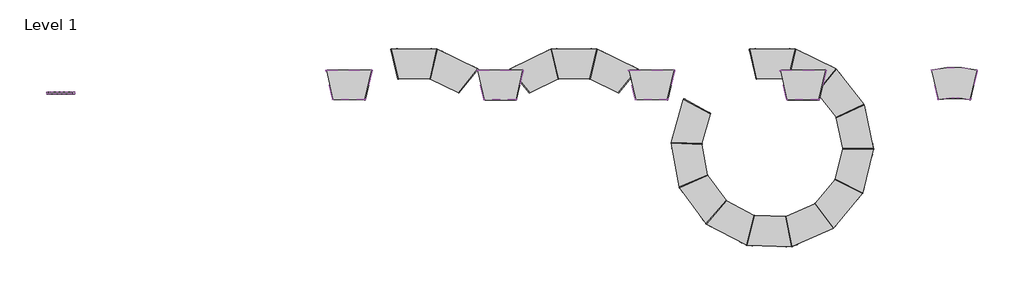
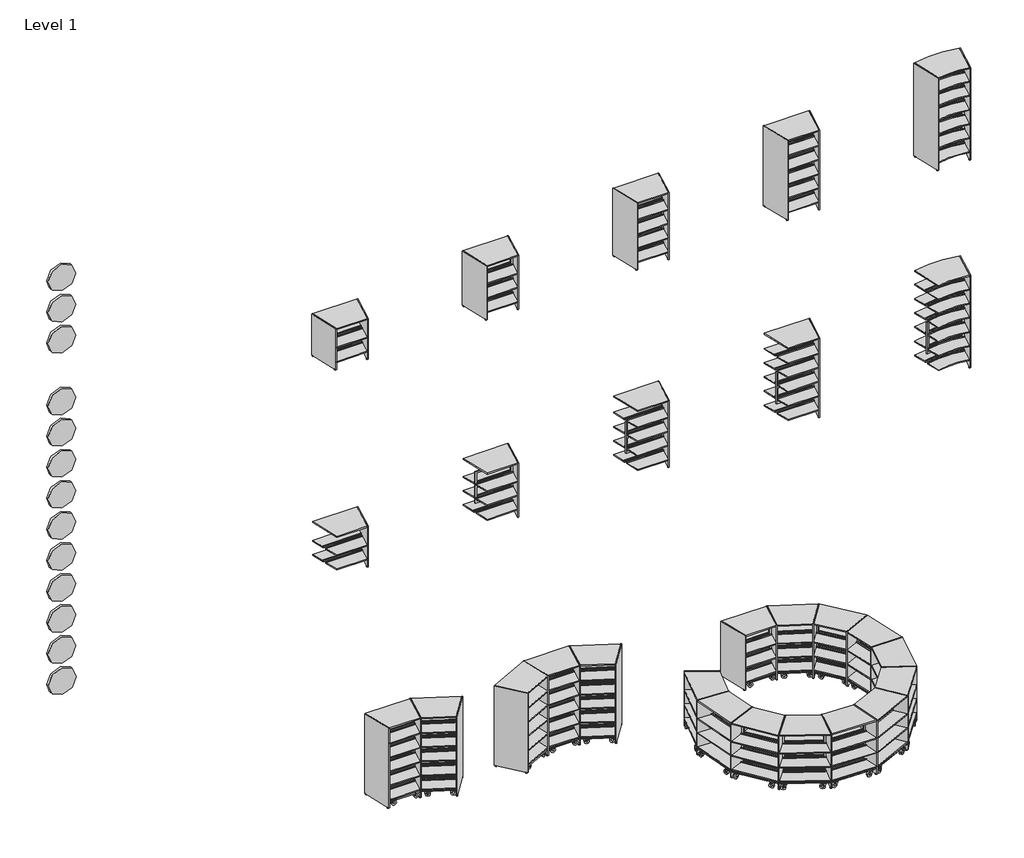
# One storey: 27 furniture elements, 13 proxies.
"""IFC4 building model written with IfcOpenShell, lengths in millimetres."""

from ifc_helpers import new_model, si_unit, origin, place, context, project, spatial, transform, mapped, element, save
from components import materialmodel_materialmodel_37012b21, bk_library_atlas_df_1240_bk_library_atlas_df_1240_fbd94dde, bk_library_atlas_df_1240_bk_library_atlas_df_1240_5238fd98, bk_library_atlas_df_1240_bk_library_atlas_df_1240_d876e077, bk_library_atlas_df_1530_bk_library_atlas_df_1530_acc2bcb0, bk_library_atlas_df_1800_bk_library_atlas_df_1800_94cf6b04, bk_library_atlas_df_1800_bk_library_atlas_df_1800_3e1de083, bk_library_atlas_df_1800_bk_library_atlas_df_1800_6cbebfb4, bk_library_atlas_df_2100_bk_library_atlas_df_2100_e4d77250, bk_library_atlas_df_950_bk_library_atlas_df_950_67e1581c, bk_library_atlas_ds_1240_bk_library_atlas_ds_1240_f50a3288, bk_library_atlas_ds_1240_bk_library_atlas_ds_1240_41a0ee64, bk_library_atlas_ds_1530_bk_library_atlas_ds_1530_61157fd0, bk_library_atlas_ds_1800_bk_library_atlas_ds_1800_477fe875, bk_library_atlas_ds_1800_bk_library_atlas_ds_1800_9343d491, bk_library_atlas_ds_2100_bk_library_atlas_ds_2100_990d0805, bk_library_atlas_ds_950_bk_library_atlas_ds_950_578a3dcb

model = new_model("IFC4")

# Units and contexts
model_context = context("Model", 3, world=origin())
ifc_project = project(units=[si_unit("LENGTHUNIT", "METRE", prefix="MILLI")], contexts=[model_context])

# Site, building, storey
site = spatial("IfcSite", under=ifc_project)
building = spatial("IfcBuilding", under=site)
storey = spatial("IfcBuildingStorey", under=building, Name="Level 1", Elevation=0.0)

# Proxies
placement = place(None, origin())
materialmodel_materialmodel_shape = materialmodel_materialmodel_37012b21(model_context)
element("IfcBuildingElementProxy", 1, Name="MaterialModel : MaterialModel", ObjectType="MaterialModel : MaterialModel", at=placement, inside=storey, context=model_context, shape_type="MappedRepresentation", body=[
    mapped(materialmodel_materialmodel_shape, transform((-17967.0147555, 6390.3767321, 4320.7797695), x_axis=(1.0, 0.0, 0.0), y_axis=(0.0, 1.0, 0.0), z_axis=(0.0, 0.0, 1.0))),
])
element("IfcBuildingElementProxy", 2, Name="MaterialModel : MaterialModel", ObjectType="MaterialModel : MaterialModel", at=placement, inside=storey, context=model_context, shape_type="MappedRepresentation", body=[
    mapped(materialmodel_materialmodel_shape, transform((-17967.0147555, 6390.3767321, 5023.0950226), x_axis=(1.0, 0.0, 0.0), y_axis=(0.0, 1.0, 0.0), z_axis=(0.0, 0.0, 1.0))),
])
element("IfcBuildingElementProxy", 3, Name="MaterialModel : MaterialModel", ObjectType="MaterialModel : MaterialModel", at=placement, inside=storey, context=model_context, shape_type="MappedRepresentation", body=[
    mapped(materialmodel_materialmodel_shape, transform((-17967.0147555, 6390.3767321, 2213.8340103), x_axis=(1.0, 0.0, 0.0), y_axis=(0.0, 1.0, 0.0), z_axis=(0.0, 0.0, 1.0))),
])
element("IfcBuildingElementProxy", 4, Name="MaterialModel : MaterialModel", ObjectType="MaterialModel : MaterialModel", at=placement, inside=storey, context=model_context, shape_type="MappedRepresentation", body=[
    mapped(materialmodel_materialmodel_shape, transform((-17967.0147555, 6390.3767321, 3618.4645164), x_axis=(1.0, 0.0, 0.0), y_axis=(0.0, 1.0, 0.0), z_axis=(0.0, 0.0, 1.0))),
])
element("IfcBuildingElementProxy", 5, Name="MaterialModel : MaterialModel", ObjectType="MaterialModel : MaterialModel", at=placement, inside=storey, context=model_context, shape_type="MappedRepresentation", body=[
    mapped(materialmodel_materialmodel_shape, transform((-17967.0147555, 6390.3767321, 809.2035041), x_axis=(1.0, 0.0, 0.0), y_axis=(0.0, 1.0, 0.0), z_axis=(0.0, 0.0, 1.0))),
])
element("IfcBuildingElementProxy", 6, Name="MaterialModel : MaterialModel", ObjectType="MaterialModel : MaterialModel", at=placement, inside=storey, context=model_context, shape_type="MappedRepresentation", body=[
    mapped(materialmodel_materialmodel_shape, transform((-17967.0147555, 6390.3767321, 1511.5187572), x_axis=(1.0, 0.0, 0.0), y_axis=(0.0, 1.0, 0.0), z_axis=(0.0, 0.0, 1.0))),
])
element("IfcBuildingElementProxy", 7, Name="MaterialModel : MaterialModel", ObjectType="MaterialModel : MaterialModel", at=placement, inside=storey, context=model_context, shape_type="MappedRepresentation", body=[
    mapped(materialmodel_materialmodel_shape, transform((-17967.0147555, 6390.3767321, -595.4270021), x_axis=(1.0, 0.0, 0.0), y_axis=(0.0, 1.0, 0.0), z_axis=(0.0, 0.0, 1.0))),
])
element("IfcBuildingElementProxy", 8, Name="MaterialModel : MaterialModel", ObjectType="MaterialModel : MaterialModel", at=placement, inside=storey, context=model_context, shape_type="MappedRepresentation", body=[
    mapped(materialmodel_materialmodel_shape, transform((-17967.0147555, 6390.3767321, 106.888251), x_axis=(1.0, 0.0, 0.0), y_axis=(0.0, 1.0, 0.0), z_axis=(0.0, 0.0, 1.0))),
])
element("IfcBuildingElementProxy", 9, Name="MaterialModel : MaterialModel", ObjectType="MaterialModel : MaterialModel", at=placement, inside=storey, context=model_context, shape_type="MappedRepresentation", body=[
    mapped(materialmodel_materialmodel_shape, transform((-17967.0147555, 6390.3767321, -2000.0575082), x_axis=(1.0, 0.0, 0.0), y_axis=(0.0, 1.0, 0.0), z_axis=(0.0, 0.0, 1.0))),
])
element("IfcBuildingElementProxy", 10, Name="MaterialModel : MaterialModel", ObjectType="MaterialModel : MaterialModel", at=placement, inside=storey, context=model_context, shape_type="MappedRepresentation", body=[
    mapped(materialmodel_materialmodel_shape, transform((-17967.0147555, 6390.3767321, -1297.7422552), x_axis=(1.0, 0.0, 0.0), y_axis=(0.0, 1.0, 0.0), z_axis=(0.0, 0.0, 1.0))),
])
element("IfcBuildingElementProxy", 11, Name="MaterialModel : MaterialModel", ObjectType="MaterialModel : MaterialModel", at=placement, inside=storey, context=model_context, shape_type="MappedRepresentation", body=[
    mapped(materialmodel_materialmodel_shape, transform((-17967.0147555, 6390.3767321, -3404.6880144), x_axis=(1.0, 0.0, 0.0), y_axis=(0.0, 1.0, 0.0), z_axis=(0.0, 0.0, 1.0))),
])
element("IfcBuildingElementProxy", 12, Name="MaterialModel : MaterialModel", ObjectType="MaterialModel : MaterialModel", at=placement, inside=storey, context=model_context, shape_type="MappedRepresentation", body=[
    mapped(materialmodel_materialmodel_shape, transform((-17967.0147555, 6390.3767321, -2702.3727613), x_axis=(1.0, 0.0, 0.0), y_axis=(0.0, 1.0, 0.0), z_axis=(0.0, 0.0, 1.0))),
])
element("IfcBuildingElementProxy", 13, Name="MaterialModel : MaterialModel", ObjectType="MaterialModel : MaterialModel", at=placement, inside=storey, context=model_context, shape_type="MappedRepresentation", body=[
    mapped(materialmodel_materialmodel_shape, transform((-17962.8693038, 6390.3767321, -4107.0032675), x_axis=(1.0, 0.0, 0.0), y_axis=(0.0, 1.0, 0.0), z_axis=(0.0, 0.0, 1.0))),
])

# Furniture
bk_library_atlas_df_1240_bk_library_atlas_df_1240_shape = bk_library_atlas_df_1240_bk_library_atlas_df_1240_fbd94dde(model_context)
bk_library_atlas_df_1240_bk_library_atlas_df_1240_2_shape = bk_library_atlas_df_1240_bk_library_atlas_df_1240_5238fd98(model_context)
element("IfcFurniture", 14, ObjectType="BK Library - Atlas DF - 1240 : BK Library - Atlas DF - 1240", at=placement, inside=storey, context=model_context, shape_type="MappedRepresentation", body=[
    mapped(bk_library_atlas_df_1240_bk_library_atlas_df_1240_shape, transform((-2045.6575036, 6807.7651569, -9400.0), x_axis=(0.8990234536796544, -0.43790047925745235, 0.0), y_axis=(0.43790047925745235, 0.8990234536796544, 0.0), z_axis=(0.0, 0.0, 1.0))),
    mapped(bk_library_atlas_df_1240_bk_library_atlas_df_1240_2_shape, transform((-2045.6575036, 6807.7651569, -9400.0), x_axis=(0.8990234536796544, -0.43790047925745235, 0.0), y_axis=(0.43790047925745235, 0.8990234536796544, 0.0), z_axis=(0.0, 0.0, 1.0))),
])
element("IfcFurniture", 15, ObjectType="BK Library - Atlas DF - 1240 : BK Library - Atlas DF - 1240", at=placement, inside=storey, context=model_context, shape_type="MappedRepresentation", body=[
    mapped(bk_library_atlas_df_1240_bk_library_atlas_df_1240_shape, transform((-1423.245763, 6304.5549516, -9400.0), x_axis=(0.6164863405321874, -0.7873656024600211, 0.0), y_axis=(0.7873656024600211, 0.6164863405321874, 0.0), z_axis=(0.0, 0.0, 1.0))),
    mapped(bk_library_atlas_df_1240_bk_library_atlas_df_1240_2_shape, transform((-1423.245763, 6304.5549516, -9400.0), x_axis=(0.6164863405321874, -0.7873656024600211, 0.0), y_axis=(0.7873656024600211, 0.6164863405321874, 0.0), z_axis=(0.0, 0.0, 1.0))),
])
element("IfcFurniture", 16, ObjectType="BK Library - Atlas DF - 1240 : BK Library - Atlas DF - 1240", at=placement, inside=storey, context=model_context, shape_type="MappedRepresentation", body=[
    mapped(bk_library_atlas_df_1240_bk_library_atlas_df_1240_shape, transform((-1084.0390004, 5579.6027754, -9400.0), x_axis=(0.20944790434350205, -0.9778198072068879, 0.0), y_axis=(0.9778198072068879, 0.20944790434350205, 0.0), z_axis=(0.0, 0.0, 1.0))),
    mapped(bk_library_atlas_df_1240_bk_library_atlas_df_1240_2_shape, transform((-1084.0390004, 5579.6027754, -9400.0), x_axis=(0.20944790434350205, -0.9778198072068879, 0.0), y_axis=(0.9778198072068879, 0.20944790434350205, 0.0), z_axis=(0.0, 0.0, 1.0))),
])
element("IfcFurniture", 17, ObjectType="BK Library - Atlas DF - 1240 : BK Library - Atlas DF - 1240", at=placement, inside=storey, context=model_context, shape_type="MappedRepresentation", body=[
    mapped(bk_library_atlas_df_1240_bk_library_atlas_df_1240_shape, transform((-1096.5410705, 4779.3149623, -9400.0), x_axis=(-0.23988918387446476, -0.9708002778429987, 0.0), y_axis=(0.9708002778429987, -0.23988918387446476, 0.0), z_axis=(0.0, 0.0, 1.0))),
    mapped(bk_library_atlas_df_1240_bk_library_atlas_df_1240_2_shape, transform((-1096.5410705, 4779.3149623, -9400.0), x_axis=(-0.23988918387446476, -0.9708002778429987, 0.0), y_axis=(0.9708002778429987, -0.23988918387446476, 0.0), z_axis=(0.0, 0.0, 1.0))),
])
element("IfcFurniture", 18, ObjectType="BK Library - Atlas DF - 1240 : BK Library - Atlas DF - 1240", at=placement, inside=storey, context=model_context, shape_type="MappedRepresentation", body=[
    mapped(bk_library_atlas_df_1240_bk_library_atlas_df_1240_shape, transform((-1458.2271417, 4065.3121111, -9400.0), x_axis=(-0.6407799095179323, -0.7677246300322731, 0.0), y_axis=(0.7677246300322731, -0.6407799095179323, 0.0), z_axis=(0.0, 0.0, 1.0))),
    mapped(bk_library_atlas_df_1240_bk_library_atlas_df_1240_2_shape, transform((-1458.2271417, 4065.3121111, -9400.0), x_axis=(-0.6407799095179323, -0.7677246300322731, 0.0), y_axis=(0.7677246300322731, -0.6407799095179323, 0.0), z_axis=(0.0, 0.0, 1.0))),
])
element("IfcFurniture", 19, ObjectType="BK Library - Atlas DF - 1240 : BK Library - Atlas DF - 1240", at=placement, inside=storey, context=model_context, shape_type="MappedRepresentation", body=[
    mapped(bk_library_atlas_df_1240_bk_library_atlas_df_1240_shape, transform((-2096.0535933, 3581.7893059, -9400.0), x_axis=(-0.912263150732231, -0.40960461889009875, 0.0), y_axis=(0.40960461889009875, -0.912263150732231, 0.0), z_axis=(0.0, 0.0, 1.0))),
    mapped(bk_library_atlas_df_1240_bk_library_atlas_df_1240_2_shape, transform((-2096.0535933, 3581.7893059, -9400.0), x_axis=(-0.912263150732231, -0.40960461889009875, 0.0), y_axis=(0.40960461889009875, -0.912263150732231, 0.0), z_axis=(0.0, 0.0, 1.0))),
])
element("IfcFurniture", 20, ObjectType="BK Library - Atlas DF - 1240 : BK Library - Atlas DF - 1240", at=placement, inside=storey, context=model_context, shape_type="MappedRepresentation", body=[
    mapped(bk_library_atlas_df_1240_bk_library_atlas_df_1240_shape, transform((-2881.2094008, 3426.3954724, -9400.0), x_axis=(-0.9995120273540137, 0.031236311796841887, 0.0), y_axis=(-0.031236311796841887, -0.9995120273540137, 0.0), z_axis=(0.0, 0.0, 1.0))),
    mapped(bk_library_atlas_df_1240_bk_library_atlas_df_1240_2_shape, transform((-2881.2094008, 3426.3954724, -9400.0), x_axis=(-0.9995120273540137, 0.031236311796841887, 0.0), y_axis=(-0.031236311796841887, -0.9995120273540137, 0.0), z_axis=(0.0, 0.0, 1.0))),
])
element("IfcFurniture", 21, ObjectType="BK Library - Atlas DF - 1240 : BK Library - Atlas DF - 1240", at=placement, inside=storey, context=model_context, shape_type="MappedRepresentation", body=[
    mapped(bk_library_atlas_df_1240_bk_library_atlas_df_1240_shape, transform((-3655.1299207, 3630.5128759, -9400.0), x_axis=(-0.8849063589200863, 0.46576897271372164, 0.0), y_axis=(-0.46576897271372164, -0.8849063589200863, 0.0), z_axis=(0.0, 0.0, 1.0))),
    mapped(bk_library_atlas_df_1240_bk_library_atlas_df_1240_2_shape, transform((-3655.1299207, 3630.5128759, -9400.0), x_axis=(-0.8849063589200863, 0.46576897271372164, 0.0), y_axis=(-0.46576897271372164, -0.8849063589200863, 0.0), z_axis=(0.0, 0.0, 1.0))),
])
element("IfcFurniture", 22, ObjectType="BK Library - Atlas DF - 1240 : BK Library - Atlas DF - 1240", at=placement, inside=storey, context=model_context, shape_type="MappedRepresentation", body=[
    mapped(bk_library_atlas_df_1240_bk_library_atlas_df_1240_shape, transform((-4261.5195106, 4152.9193756, -9400.0), x_axis=(-0.591591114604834, 0.8062381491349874, 0.0), y_axis=(-0.8062381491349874, -0.591591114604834, 0.0), z_axis=(0.0, 0.0, 1.0))),
    mapped(bk_library_atlas_df_1240_bk_library_atlas_df_1240_2_shape, transform((-4261.5195106, 4152.9193756, -9400.0), x_axis=(-0.591591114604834, 0.8062381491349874, 0.0), y_axis=(-0.8062381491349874, -0.591591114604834, 0.0), z_axis=(0.0, 0.0, 1.0))),
])
element("IfcFurniture", 23, ObjectType="BK Library - Atlas DF - 1240 : BK Library - Atlas DF - 1240", at=placement, inside=storey, context=model_context, shape_type="MappedRepresentation", body=[
    mapped(bk_library_atlas_df_1240_bk_library_atlas_df_1240_shape, transform((-4577.9159173, 4888.1133631, -9400.0), x_axis=(-0.17880221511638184, 0.9838850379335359, 0.0), y_axis=(-0.9838850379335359, -0.17880221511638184, 0.0), z_axis=(0.0, 0.0, 1.0))),
    mapped(bk_library_atlas_df_1240_bk_library_atlas_df_1240_2_shape, transform((-4577.9159173, 4888.1133631, -9400.0), x_axis=(-0.17880221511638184, 0.9838850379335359, 0.0), y_axis=(-0.9838850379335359, -0.17880221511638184, 0.0), z_axis=(0.0, 0.0, 1.0))),
])
element("IfcFurniture", 24, ObjectType="BK Library - Atlas DF - 1240 : BK Library - Atlas DF - 1240", at=placement, inside=storey, context=model_context, shape_type="MappedRepresentation", body=[
    mapped(bk_library_atlas_df_1240_bk_library_atlas_df_1240_shape, transform((-4540.4219082, 5687.6201391, -9400.0), x_axis=(0.27009634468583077, 0.9628333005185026, 0.0), y_axis=(-0.9628333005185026, 0.27009634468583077, 0.0), z_axis=(0.0, 0.0, 1.0))),
    mapped(bk_library_atlas_df_1240_bk_library_atlas_df_1240_2_shape, transform((-4540.4219082, 5687.6201391, -9400.0), x_axis=(0.27009634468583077, 0.9628333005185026, 0.0), y_axis=(-0.9628333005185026, 0.27009634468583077, 0.0), z_axis=(0.0, 0.0, 1.0))),
])
bk_library_atlas_df_1240_bk_library_atlas_df_1240_3_shape = bk_library_atlas_df_1240_bk_library_atlas_df_1240_d876e077(model_context)
element("IfcFurniture", 25, ObjectType="BK Library - Atlas DF - 1240 : BK Library - Atlas DF - 1240", at=placement, inside=storey, context=model_context, shape_type="MappedRepresentation", body=[
    mapped(bk_library_atlas_df_1240_bk_library_atlas_df_1240_3_shape, transform((-8615.8697796, 6538.3767227, -3426.0616634), x_axis=(1.0, 0.0, 0.0), y_axis=(0.0, 1.0, 0.0), z_axis=(0.0, 0.0, 1.0))),
])
bk_library_atlas_df_1530_bk_library_atlas_df_1530_shape = bk_library_atlas_df_1530_bk_library_atlas_df_1530_acc2bcb0(model_context)
element("IfcFurniture", 26, ObjectType="BK Library - Atlas DF - 1530 : BK Library - Atlas DF - 1530", at=placement, inside=storey, context=model_context, shape_type="MappedRepresentation", body=[
    mapped(bk_library_atlas_df_1530_bk_library_atlas_df_1530_shape, transform((-5395.8697796, 6539.3767164, -3426.0616634), x_axis=(1.0, 0.0, 0.0), y_axis=(0.0, 1.0, 0.0), z_axis=(0.0, 0.0, 1.0))),
])
bk_library_atlas_df_1800_bk_library_atlas_df_1800_shape = bk_library_atlas_df_1800_bk_library_atlas_df_1800_94cf6b04(model_context)
bk_library_atlas_df_1800_bk_library_atlas_df_1800_2_shape = bk_library_atlas_df_1800_bk_library_atlas_df_1800_3e1de083(model_context)
element("IfcFurniture", 27, ObjectType="BK Library - Atlas DF - 1800 : BK Library - Atlas DF - 1800", at=placement, inside=storey, context=model_context, shape_type="MappedRepresentation", body=[
    mapped(bk_library_atlas_df_1800_bk_library_atlas_df_1800_shape, transform((-7045.5762463, 6988.6085277, -9400.0), x_axis=(1.0, 0.0, 0.0), y_axis=(0.0, 1.0, 0.0), z_axis=(0.0, 0.0, 1.0))),
    mapped(bk_library_atlas_df_1800_bk_library_atlas_df_1800_2_shape, transform((-7045.5762463, 6988.6085277, -9400.0), x_axis=(1.0, 0.0, 0.0), y_axis=(0.0, 1.0, 0.0), z_axis=(0.0, 0.0, 1.0))),
])
element("IfcFurniture", 28, ObjectType="BK Library - Atlas DF - 1800 : BK Library - Atlas DF - 1800", at=placement, inside=storey, context=model_context, shape_type="MappedRepresentation", body=[
    mapped(bk_library_atlas_df_1800_bk_library_atlas_df_1800_shape, transform((-6265.6575036, 6808.7651506, -9400.0), x_axis=(0.8990234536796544, -0.43790047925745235, 0.0), y_axis=(0.43790047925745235, 0.8990234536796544, 0.0), z_axis=(0.0, 0.0, 1.0))),
    mapped(bk_library_atlas_df_1800_bk_library_atlas_df_1800_2_shape, transform((-6265.6575036, 6808.7651506, -9400.0), x_axis=(0.8990234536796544, -0.43790047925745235, 0.0), y_axis=(0.43790047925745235, 0.8990234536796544, 0.0), z_axis=(0.0, 0.0, 1.0))),
])
element("IfcFurniture", 29, ObjectType="BK Library - Atlas DF - 1800 : BK Library - Atlas DF - 1800", at=placement, inside=storey, context=model_context, shape_type="MappedRepresentation", body=[
    mapped(bk_library_atlas_df_1800_bk_library_atlas_df_1800_shape, transform((-9665.6575036, 6808.7651506, -9400.0), x_axis=(0.8990234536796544, -0.43790047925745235, 0.0), y_axis=(0.43790047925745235, 0.8990234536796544, 0.0), z_axis=(0.0, 0.0, 1.0))),
    mapped(bk_library_atlas_df_1800_bk_library_atlas_df_1800_2_shape, transform((-9665.6575036, 6808.7651506, -9400.0), x_axis=(0.8990234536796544, -0.43790047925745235, 0.0), y_axis=(0.43790047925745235, 0.8990234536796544, 0.0), z_axis=(0.0, 0.0, 1.0))),
])
bk_library_atlas_df_1800_bk_library_atlas_df_1800_3_shape = bk_library_atlas_df_1800_bk_library_atlas_df_1800_6cbebfb4(model_context)
element("IfcFurniture", 30, ObjectType="BK Library - Atlas DF - 1800 : BK Library - Atlas DF - 1800", at=placement, inside=storey, context=model_context, shape_type="MappedRepresentation", body=[
    mapped(bk_library_atlas_df_1800_bk_library_atlas_df_1800_3_shape, transform((-2175.8697796, 6538.3767227, -3426.0616634), x_axis=(1.0, 0.0, 0.0), y_axis=(0.0, 1.0, 0.0), z_axis=(0.0, 0.0, 1.0))),
])
bk_library_atlas_df_2100_bk_library_atlas_df_2100_shape = bk_library_atlas_df_2100_bk_library_atlas_df_2100_e4d77250(model_context)
element("IfcFurniture", 31, ObjectType="BK Library - Atlas DF - 2100 : BK Library - Atlas DF - 2100", at=placement, inside=storey, context=model_context, shape_type="MappedRepresentation", body=[
    mapped(bk_library_atlas_df_2100_bk_library_atlas_df_2100_shape, transform((1044.1302204, 6539.3767164, -3426.0616634), x_axis=(1.0, 0.0, 0.0), y_axis=(0.0, 1.0, 0.0), z_axis=(0.0, 0.0, 1.0))),
])
bk_library_atlas_df_950_bk_library_atlas_df_950_shape = bk_library_atlas_df_950_bk_library_atlas_df_950_67e1581c(model_context)
element("IfcFurniture", 32, ObjectType="BK Library - Atlas DF - 950 : BK Library - Atlas DF - 950", at=placement, inside=storey, context=model_context, shape_type="MappedRepresentation", body=[
    mapped(bk_library_atlas_df_950_bk_library_atlas_df_950_shape, transform((-11835.8697796, 6539.3767164, -3426.0616634), x_axis=(1.0, 0.0, 0.0), y_axis=(0.0, 1.0, 0.0), z_axis=(0.0, 0.0, 1.0))),
])
bk_library_atlas_ds_1240_bk_library_atlas_ds_1240_shape = bk_library_atlas_ds_1240_bk_library_atlas_ds_1240_f50a3288(model_context)
element("IfcFurniture", 33, ObjectType="BK Library - Atlas DS - 1240 : BK Library - Atlas DS - 1240", at=placement, inside=storey, context=model_context, shape_type="MappedRepresentation", body=[
    mapped(bk_library_atlas_df_1240_bk_library_atlas_df_1240_shape, transform((-2825.5762463, 6987.608534, -9400.0), x_axis=(1.0, 0.0, 0.0), y_axis=(0.0, 1.0, 0.0), z_axis=(0.0, 0.0, 1.0))),
    mapped(bk_library_atlas_ds_1240_bk_library_atlas_ds_1240_shape, transform((-2825.5762463, 6987.608534, -9400.0), x_axis=(1.0, 0.0, 0.0), y_axis=(0.0, 1.0, 0.0), z_axis=(0.0, 0.0, 1.0))),
])
bk_library_atlas_ds_1240_bk_library_atlas_ds_1240_2_shape = bk_library_atlas_ds_1240_bk_library_atlas_ds_1240_41a0ee64(model_context)
element("IfcFurniture", 34, ObjectType="BK Library - Atlas DS - 1240 : BK Library - Atlas DS - 1240", at=placement, inside=storey, context=model_context, shape_type="MappedRepresentation", body=[
    mapped(bk_library_atlas_ds_1240_bk_library_atlas_ds_1240_2_shape, transform((-8615.8697796, 6538.3767227, 1273.9383366), x_axis=(1.0, 0.0, 0.0), y_axis=(0.0, 1.0, 0.0), z_axis=(0.0, 0.0, 1.0))),
])
bk_library_atlas_ds_1530_bk_library_atlas_ds_1530_shape = bk_library_atlas_ds_1530_bk_library_atlas_ds_1530_61157fd0(model_context)
element("IfcFurniture", 35, ObjectType="BK Library - Atlas DS - 1530 : BK Library - Atlas DS - 1530", at=placement, inside=storey, context=model_context, shape_type="MappedRepresentation", body=[
    mapped(bk_library_atlas_ds_1530_bk_library_atlas_ds_1530_shape, transform((-5395.8697796, 6539.3767164, 1273.9383366), x_axis=(1.0, 0.0, 0.0), y_axis=(0.0, 1.0, 0.0), z_axis=(0.0, 0.0, 1.0))),
])
bk_library_atlas_ds_1800_bk_library_atlas_ds_1800_shape = bk_library_atlas_ds_1800_bk_library_atlas_ds_1800_477fe875(model_context)
element("IfcFurniture", 36, ObjectType="BK Library - Atlas DS - 1800 : BK Library - Atlas DS - 1800", at=placement, inside=storey, context=model_context, shape_type="MappedRepresentation", body=[
    mapped(bk_library_atlas_df_1800_bk_library_atlas_df_1800_shape, transform((-7825.494989, 6808.7651506, -9400.0), x_axis=(0.8990234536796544, 0.43790047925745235, 0.0), y_axis=(-0.43790047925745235, 0.8990234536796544, 0.0), z_axis=(0.0, 0.0, 1.0))),
    mapped(bk_library_atlas_ds_1800_bk_library_atlas_ds_1800_shape, transform((-7825.494989, 6808.7651506, -9400.0), x_axis=(0.8990234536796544, 0.43790047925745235, 0.0), y_axis=(-0.43790047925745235, 0.8990234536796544, 0.0), z_axis=(0.0, 0.0, 1.0))),
])
element("IfcFurniture", 37, ObjectType="BK Library - Atlas DS - 1800 : BK Library - Atlas DS - 1800", at=placement, inside=storey, context=model_context, shape_type="MappedRepresentation", body=[
    mapped(bk_library_atlas_df_1800_bk_library_atlas_df_1800_shape, transform((-10445.5762463, 6988.6085277, -9400.0), x_axis=(1.0, 0.0, 0.0), y_axis=(0.0, 1.0, 0.0), z_axis=(0.0, 0.0, 1.0))),
    mapped(bk_library_atlas_ds_1800_bk_library_atlas_ds_1800_shape, transform((-10445.5762463, 6988.6085277, -9400.0), x_axis=(1.0, 0.0, 0.0), y_axis=(0.0, 1.0, 0.0), z_axis=(0.0, 0.0, 1.0))),
])
bk_library_atlas_ds_1800_bk_library_atlas_ds_1800_2_shape = bk_library_atlas_ds_1800_bk_library_atlas_ds_1800_9343d491(model_context)
element("IfcFurniture", 38, ObjectType="BK Library - Atlas DS - 1800 : BK Library - Atlas DS - 1800", at=placement, inside=storey, context=model_context, shape_type="MappedRepresentation", body=[
    mapped(bk_library_atlas_ds_1800_bk_library_atlas_ds_1800_2_shape, transform((-2175.8697796, 6538.3767227, 1273.9383366), x_axis=(1.0, 0.0, 0.0), y_axis=(0.0, 1.0, 0.0), z_axis=(0.0, 0.0, 1.0))),
])
bk_library_atlas_ds_2100_bk_library_atlas_ds_2100_shape = bk_library_atlas_ds_2100_bk_library_atlas_ds_2100_990d0805(model_context)
element("IfcFurniture", 39, ObjectType="BK Library - Atlas DS - 2100 : BK Library - Atlas DS - 2100", at=placement, inside=storey, context=model_context, shape_type="MappedRepresentation", body=[
    mapped(bk_library_atlas_ds_2100_bk_library_atlas_ds_2100_shape, transform((1044.1302204, 6539.3767164, 1273.9383366), x_axis=(1.0, 0.0, 0.0), y_axis=(0.0, 1.0, 0.0), z_axis=(0.0, 0.0, 1.0))),
])
bk_library_atlas_ds_950_bk_library_atlas_ds_950_shape = bk_library_atlas_ds_950_bk_library_atlas_ds_950_578a3dcb(model_context)
element("IfcFurniture", 40, ObjectType="BK Library - Atlas DS - 950 : BK Library - Atlas DS - 950", at=placement, inside=storey, context=model_context, shape_type="MappedRepresentation", body=[
    mapped(bk_library_atlas_ds_950_bk_library_atlas_ds_950_shape, transform((-11835.8697796, 6539.3767164, 1273.9383366), x_axis=(1.0, 0.0, 0.0), y_axis=(0.0, 1.0, 0.0), z_axis=(0.0, 0.0, 1.0))),
])

save(model, "model.ifc")
